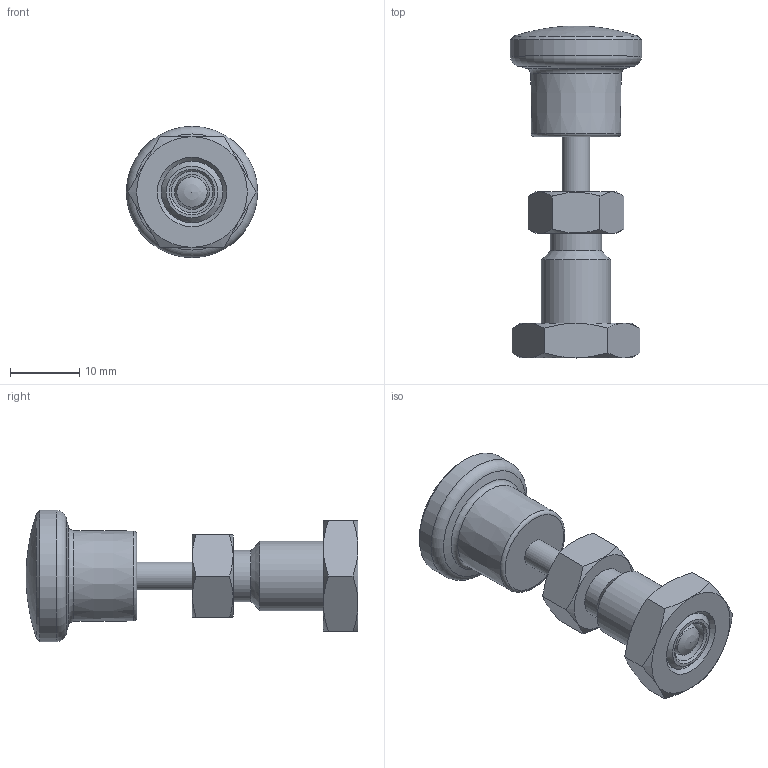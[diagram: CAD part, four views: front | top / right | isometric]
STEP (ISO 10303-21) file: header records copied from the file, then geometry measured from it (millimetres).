
FILE_DESCRIPTION( ( 'STEP AP203' ), '1' );
FILE_NAME( 'C:/Temp/Ganter_Step_05_03_2020/data/3_1/gn817/gn817_ni-rastbolzen_rot/Stainless Steel-Indexing plunger GN 817-5-8-BK-NI-RT (activated-0).stp', '2020-03-12T09:00:28', ( 'License CC BY-ND 4.0' ), ( 'CADENAS' ), ' ', 'PARTsolutions', ' ' );
FILE_SCHEMA( ( 'CONFIG_CONTROL_DESIGN' ) );
Length unit declared in the file: millimetre
Products named in the file (5): Stainless Steel-Indexing plunger GN 817-5-8-BK-NI-RT (activated-0); _Stainless steel-Indexing plunger GN 817-5-8-BK-NI-RT (activated-0)-d; _Stainless steel-Indexing plunger GN 817-5-8-B-NI-RT-2; _Stainless Steel Indexing plunger GN 817-5-8-B-NI-RT-1; _Stainless steel-Indexing plunger GN 817-5-8-BK-NI-RT (deactivated-0)-3
Assembly tree (4 placements, depth 2):
  Stainless Steel-Indexing plunger GN 817-5-8-BK-NI-RT (activated-0)
    _Stainless steel-Indexing plunger GN 817-5-8-BK-NI-RT (activated-0)-d
    _Stainless steel-Indexing plunger GN 817-5-8-B-NI-RT-2
    _Stainless Steel Indexing plunger GN 817-5-8-B-NI-RT-1
    _Stainless steel-Indexing plunger GN 817-5-8-BK-NI-RT (deactivated-0)-3
Bounding box: 19 x 48 x 19 mm (x, y, z)
Volume: 5591.9 mm3; surface area: 3823.2 mm2
Topology: 3 solids, 3 shells, 61 faces, 127 edges, 76 vertices
Faces by surface type: cone 24, plane 21, cylinder 9, torus 5, bspline 1, sphere 1
Full cylindrical faces by diameter (mm): 4 x2, 5 x1, 6 x2, 7.4 x1, 8.917 x1, 10 x1, 19 x1
Entity records: 1791 total; most frequent: CARTESIAN_POINT 504, DIRECTION 234, ORIENTED_EDGE 188, AXIS2_PLACEMENT_3D 111, EDGE_LOOP 96, EDGE_CURVE 94, FACE_OUTER_BOUND 75, VERTEX_POINT 72
